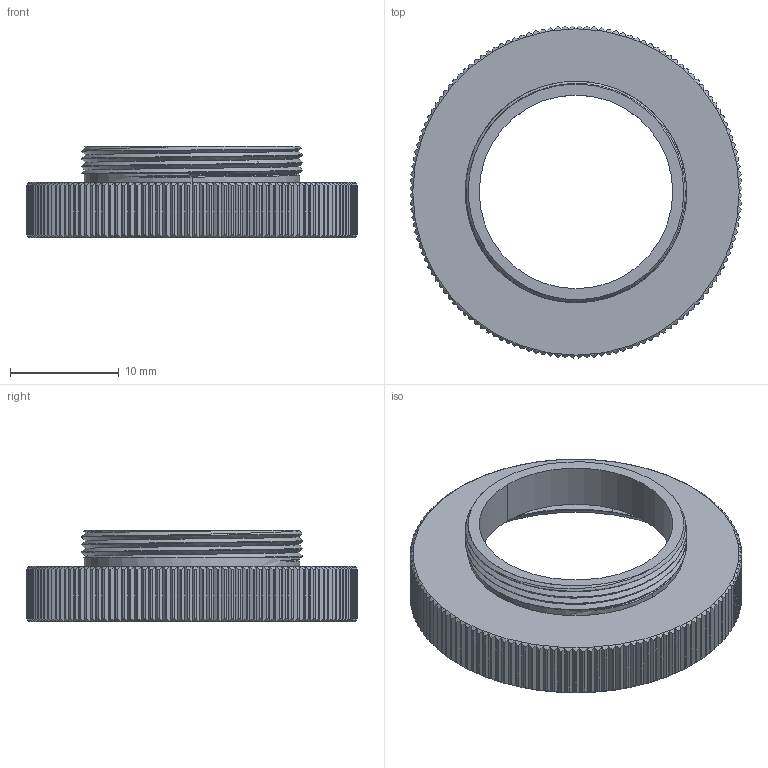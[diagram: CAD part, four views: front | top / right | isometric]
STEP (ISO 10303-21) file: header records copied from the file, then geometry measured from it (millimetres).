
FILE_DESCRIPTION((''),'2;1');
FILE_NAME('RMS-27','2022-02-19T',('daizhiwen'),(''),'CREO PARAMETRIC BY PTC INC, 2018360','CREO PARAMETRIC BY PTC INC, 2018360','');
FILE_SCHEMA(('CONFIG_CONTROL_DESIGN'));
Length unit declared in the file: millimetre
Products named in the file (1): RMS-27
Bounding box: 30.48 x 30.48 x 8.38 mm (x, y, z)
Volume: 1233.3 mm3; surface area: 2555.2 mm2
Topology: 1 solids, 1 shells, 471 faces, 1390 edges, 924 vertices
Faces by surface type: plane 288, cylinder 160, bspline 15, cone 8
Entity records: 19327 total; most frequent: CARTESIAN_POINT 7690, ORIENTED_EDGE 2780, DIRECTION 1988, EDGE_CURVE 1390, VERTEX_POINT 924, AXIS2_PLACEMENT_3D 763, B_SPLINE_CURVE_WITH_KNOTS 621, EDGE_LOOP 476
